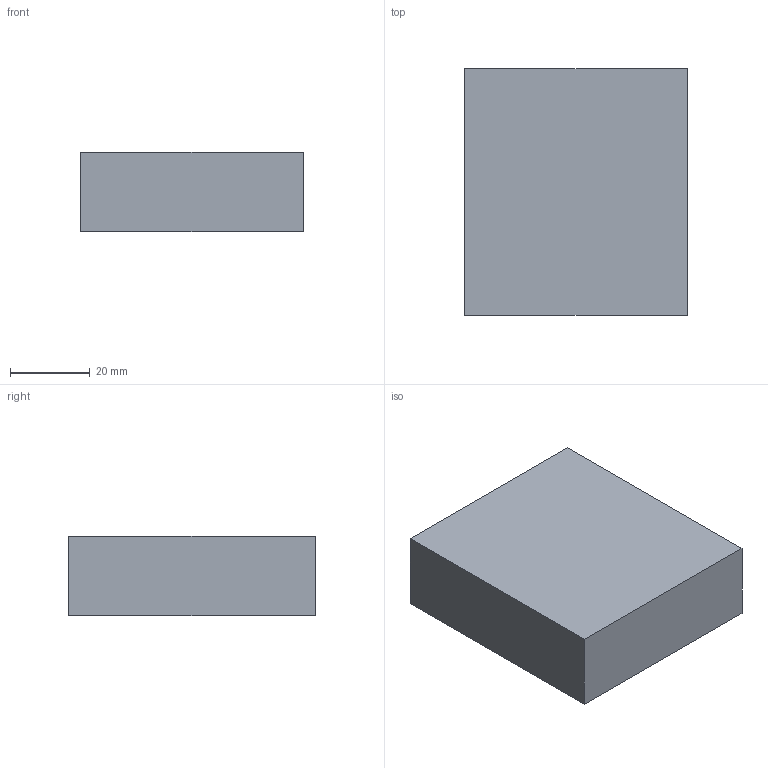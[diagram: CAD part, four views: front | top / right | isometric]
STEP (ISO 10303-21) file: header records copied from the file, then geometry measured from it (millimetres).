
FILE_DESCRIPTION(('Open CASCADE Model'),'2;1');
FILE_NAME('battery','2026-08-12T02:42:45',('Author'),('Open CASCADE'), 'Open CASCADE STEP processor 7.9','build123d','Unknown');
FILE_SCHEMA(('AUTOMOTIVE_DESIGN { 1 0 10303 214 1 1 1 1 }'));
Length unit declared in the file: millimetre
Products named in the file (2): battery
Assembly tree (1 placements, depth 2):
  battery
    battery
Bounding box: 56 x 62 x 20 mm (x, y, z)
Volume: 69440 mm3; surface area: 11664 mm2
Topology: 1 solids, 1 shells, 6 faces, 12 edges, 8 vertices
Faces by surface type: plane 6
Entity records: 340 total; most frequent: CARTESIAN_POINT 52, DIRECTION 52, LINE 36, VECTOR 36, ORIENTED_EDGE 24, PCURVE 24, DEFINITIONAL_REPRESENTATION 24, EDGE_CURVE 12
